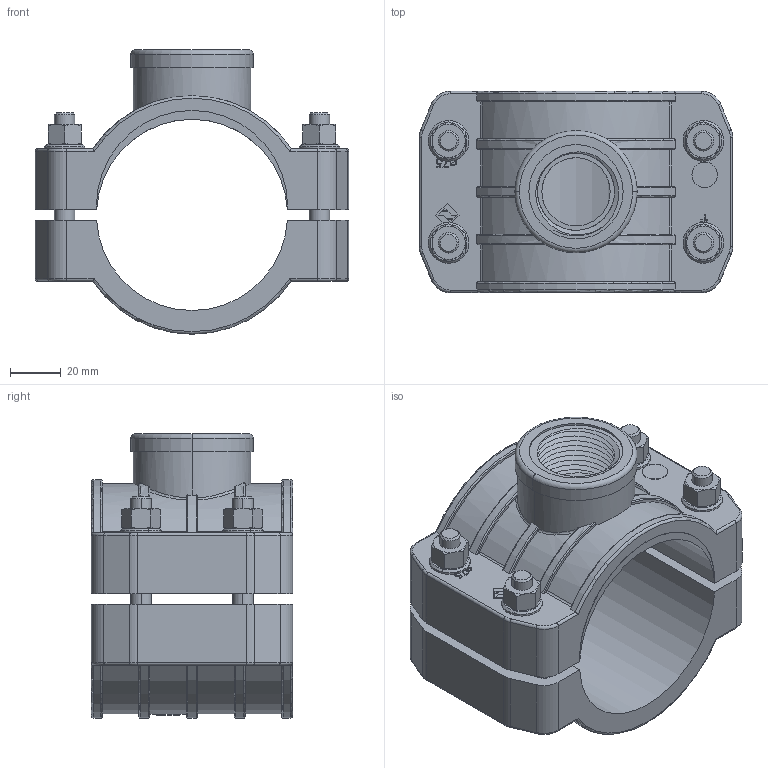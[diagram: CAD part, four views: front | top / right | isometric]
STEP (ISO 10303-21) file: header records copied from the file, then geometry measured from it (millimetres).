
FILE_DESCRIPTION (( 'STEP AP214' ), '1' );
FILE_NAME ('727627063 - Bra Saddle PP PN16 d75x1''''.STEP', '2024-06-12T14:24:58', ( '' ), ( '' ), 'SwSTEP 2.0', 'SolidWorks 2023', '' );
FILE_SCHEMA (( 'AUTOMOTIVE_DESIGN' ));
Length unit declared in the file: millimetre
Products named in the file (7): 158922024 - Staffa cieca azzurra D75; plain washer chamfered grade a_iso_Washer ISO 7090 - 8; Riforc Ring INOX 1; 158918009 - Staffa filettata azzurra D75x1''''; hex bolt gradeb_iso_ISO 4015 - M8 x 60 x 22-N; 727627063 - Bra Saddle PP PN16 d75x1''''; hex nut gradec_iso_ISO - 4034 - M8 - N
Assembly tree (15 placements, depth 2):
  727627063 - Bra Saddle PP PN16 d75x1''''
    158922024 - Staffa cieca azzurra D75
    158918009 - Staffa filettata azzurra D75x1''''
    hex bolt gradeb_iso_ISO 4015 - M8 x 60 x 22-N  x4
    plain washer chamfered grade a_iso_Washer ISO 7090 - 8  x4
    hex nut gradec_iso_ISO - 4034 - M8 - N  x4
    Riforc Ring INOX 1
Bounding box: 123 x 79 x 111.6 mm (x, y, z)
Volume: 141047.7 mm3; surface area: 102257.7 mm2
Topology: 14 solids, 16 shells, 934 faces, 2319 edges, 1410 vertices
Faces by surface type: plane 317, cylinder 296, cone 136, bspline 69, torus 64, sphere 52
Entity records: 30768 total; most frequent: CARTESIAN_POINT 12821, ORIENTED_EDGE 3766, DIRECTION 3576, EDGE_CURVE 1887, AXIS2_PLACEMENT_3D 1331, VERTEX_POINT 1174, LINE 914, VECTOR 914
